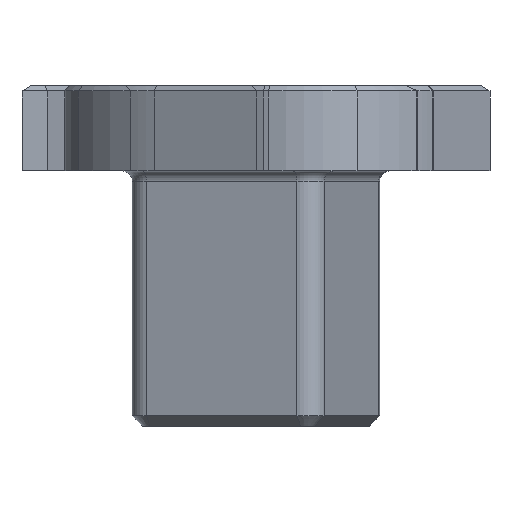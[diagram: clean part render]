
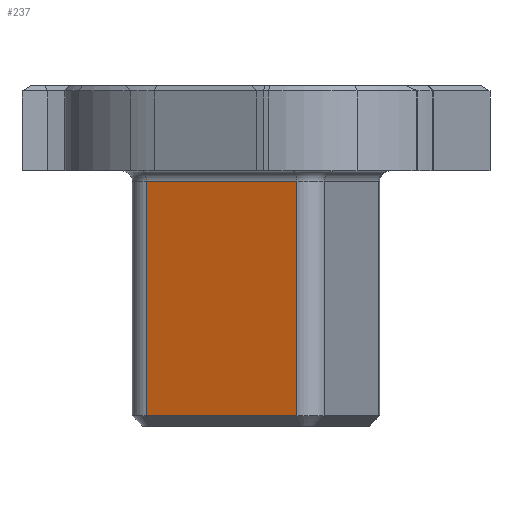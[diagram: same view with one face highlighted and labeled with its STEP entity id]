
A CAD part, left-side view. The second image highlights one B-rep face of the part: STEP entity #237.
In plain terms, the highlighted planar face has unit normal (-0.941, 0.339, 0).
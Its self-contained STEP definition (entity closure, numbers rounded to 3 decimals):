
#237 = ADVANCED_FACE( '', ( #621 ), #622, .F. );
#621 = FACE_OUTER_BOUND( '', #1157, .T. );
#622 = PLANE( '', #1158 );
#1157 = EDGE_LOOP( '', ( #1859, #1860, #1861, #1862 ) );
#1158 = AXIS2_PLACEMENT_3D( '', #1863, #1864, #1865 );
#1859 = ORIENTED_EDGE( '', *, *, #3275, .T. );
#1860 = ORIENTED_EDGE( '', *, *, #3148, .T. );
#1861 = ORIENTED_EDGE( '', *, *, #3298, .T. );
#1862 = ORIENTED_EDGE( '', *, *, #3299, .T. );
#1863 = CARTESIAN_POINT( '', ( -6.096, -2.863, -14. ) );
#1864 = DIRECTION( '', ( 0.941, -0.339, 0. ) );
#1865 = DIRECTION( '', ( 0.339, 0.941, 0. ) );
#3148 = EDGE_CURVE( '', #3739, #3737, #3740, .F. );
#3275 = EDGE_CURVE( '', #3972, #3739, #3973, .T. );
#3298 = EDGE_CURVE( '', #3737, #4005, #4006, .F. );
#3299 = EDGE_CURVE( '', #4005, #3972, #4007, .T. );
#3737 = VERTEX_POINT( '', #4572 );
#3739 = VERTEX_POINT( '', #4574 );
#3740 = LINE( '', #4575, #4576 );
#3972 = VERTEX_POINT( '', #4877 );
#3973 = LINE( '', #4878, #4879 );
#4005 = VERTEX_POINT( '', #4922 );
#4006 = LINE( '', #4923, #4924 );
#4007 = LINE( '', #4925, #4926 );
#4572 = CARTESIAN_POINT( '', ( -3.203, 5.156, -2.5 ) );
#4574 = CARTESIAN_POINT( '', ( -5.757, -1.923, -2.5 ) );
#4575 = CARTESIAN_POINT( '', ( -6.096, -2.863, -2.5 ) );
#4576 = VECTOR( '', #5716, 1000. );
#4877 = CARTESIAN_POINT( '', ( -5.757, -1.923, -13.5 ) );
#4878 = CARTESIAN_POINT( '', ( -5.757, -1.923, -14. ) );
#4879 = VECTOR( '', #5927, 1000. );
#4922 = CARTESIAN_POINT( '', ( -3.203, 5.156, -13.5 ) );
#4923 = CARTESIAN_POINT( '', ( -3.203, 5.156, -14. ) );
#4924 = VECTOR( '', #5957, 1000. );
#4925 = CARTESIAN_POINT( '', ( -5.757, -1.923, -13.5 ) );
#4926 = VECTOR( '', #5958, 1000. );
#5716 = DIRECTION( '', ( -0.339, -0.941, 0. ) );
#5927 = DIRECTION( '', ( 0., 0., 1. ) );
#5957 = DIRECTION( '', ( 0., 0., 1. ) );
#5958 = DIRECTION( '', ( -0.339, -0.941, 0. ) );
